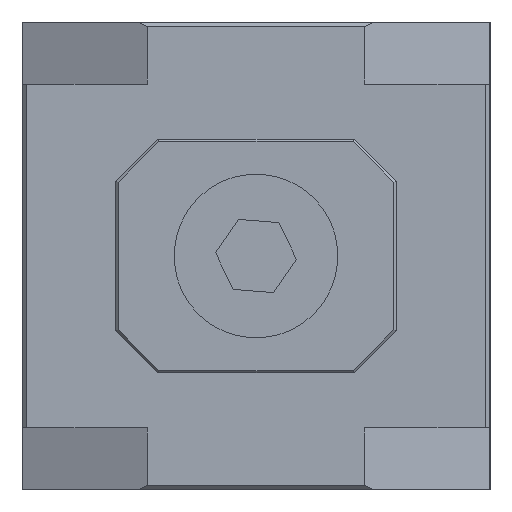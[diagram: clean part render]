
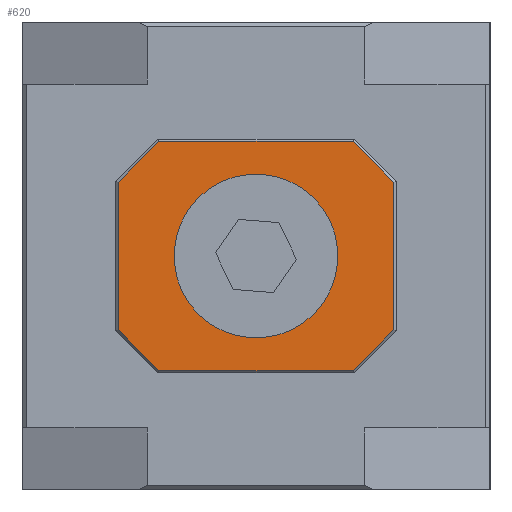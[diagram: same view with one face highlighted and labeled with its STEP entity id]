
A CAD part, left-side view. The second image highlights one B-rep face of the part: STEP entity #620.
In plain terms, the highlighted planar face has unit normal (-1, 0, 0) as drawn and (0, 0, 1) by its records, which use the part's own axes.
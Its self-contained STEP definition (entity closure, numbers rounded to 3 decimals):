
#16 = CARTESIAN_POINT ( 'NONE',  ( -4.995, -5.895, 1.8 ) ) ;
#20 = ORIENTED_EDGE ( 'NONE', *, *, #1202, .T. ) ;
#36 = LINE ( 'NONE', #755, #417 ) ;
#42 = EDGE_CURVE ( 'NONE', #1284, #1095, #1814, .T. ) ;
#50 = EDGE_CURVE ( 'NONE', #1095, #1284, #1172, .T. ) ;
#61 = VERTEX_POINT ( 'NONE', #591 ) ;
#67 = VERTEX_POINT ( 'NONE', #1651 ) ;
#91 = DIRECTION ( 'NONE',  ( 0., 0., -1. ) ) ;
#97 = DIRECTION ( 'NONE',  ( -1., 0., 0. ) ) ;
#110 = EDGE_CURVE ( 'NONE', #1385, #1147, #36, .T. ) ;
#134 = VERTEX_POINT ( 'NONE', #613 ) ;
#155 = DIRECTION ( 'NONE',  ( 1., 0., 0. ) ) ;
#156 = VECTOR ( 'NONE', #706, 1000. ) ;
#245 = VECTOR ( 'NONE', #915, 1000. ) ;
#287 = EDGE_CURVE ( 'NONE', #67, #1154, #1454, .T. ) ;
#335 = LINE ( 'NONE', #1062, #831 ) ;
#336 = CARTESIAN_POINT ( 'NONE',  ( -4.895, -4.154, 1.8 ) ) ;
#417 = VECTOR ( 'NONE', #1514, 1000. ) ;
#436 = VECTOR ( 'NONE', #1719, 1000. ) ;
#455 = DIRECTION ( 'NONE',  ( 1., 0., 0. ) ) ;
#459 = CARTESIAN_POINT ( 'NONE',  ( 4.895, 5.995, 1.8 ) ) ;
#476 = CARTESIAN_POINT ( 'NONE',  ( -4.024, 5.024, 1.8 ) ) ;
#494 = DIRECTION ( 'NONE',  ( 0., 1., 0. ) ) ;
#524 = CARTESIAN_POINT ( 'NONE',  ( -4.995, 5.995, 1.8 ) ) ;
#557 = ORIENTED_EDGE ( 'NONE', *, *, #110, .T. ) ;
#591 = CARTESIAN_POINT ( 'NONE',  ( 3.154, 5.895, 1.8 ) ) ;
#592 = CARTESIAN_POINT ( 'NONE',  ( -0.971, 10.019, 1.8 ) ) ;
#613 = CARTESIAN_POINT ( 'NONE',  ( -3.154, 5.895, 1.8 ) ) ;
#620 = ADVANCED_FACE ( 'NONE', ( #986, #1384 ), #1599, .F. ) ;
#666 = CARTESIAN_POINT ( 'NONE',  ( 3.154, -5.895, 1.8 ) ) ;
#689 = AXIS2_PLACEMENT_3D ( 'NONE', #524, #91, #97 ) ;
#706 = DIRECTION ( 'NONE',  ( 0.707, -0.707, 0. ) ) ;
#734 = LINE ( 'NONE', #1875, #156 ) ;
#755 = CARTESIAN_POINT ( 'NONE',  ( -4.895, 5.995, 1.8 ) ) ;
#766 = ORIENTED_EDGE ( 'NONE', *, *, #934, .T. ) ;
#816 = VERTEX_POINT ( 'NONE', #1184 ) ;
#831 = VECTOR ( 'NONE', #1659, 1000. ) ;
#833 = LINE ( 'NONE', #1425, #436 ) ;
#895 = ORIENTED_EDGE ( 'NONE', *, *, #1710, .T. ) ;
#915 = DIRECTION ( 'NONE',  ( 1., 0., 0. ) ) ;
#929 = CARTESIAN_POINT ( 'NONE',  ( -1.65, 0., 1.8 ) ) ;
#934 = EDGE_CURVE ( 'NONE', #816, #1638, #1740, .T. ) ;
#935 = ORIENTED_EDGE ( 'NONE', *, *, #1640, .T. ) ;
#957 = ORIENTED_EDGE ( 'NONE', *, *, #1891, .T. ) ;
#980 = CARTESIAN_POINT ( 'NONE',  ( -4.895, 4.154, 1.8 ) ) ;
#986 = FACE_OUTER_BOUND ( 'NONE', #1666, .T. ) ;
#996 = EDGE_CURVE ( 'NONE', #1154, #61, #1428, .T. ) ;
#1000 = VECTOR ( 'NONE', #1526, 1000. ) ;
#1006 = ORIENTED_EDGE ( 'NONE', *, *, #287, .T. ) ;
#1062 = CARTESIAN_POINT ( 'NONE',  ( -4.995, 5.895, 1.8 ) ) ;
#1070 = ORIENTED_EDGE ( 'NONE', *, *, #996, .T. ) ;
#1088 = VECTOR ( 'NONE', #1516, 1000. ) ;
#1095 = VERTEX_POINT ( 'NONE', #929 ) ;
#1102 = CARTESIAN_POINT ( 'NONE',  ( 1.65, 0., 1.8 ) ) ;
#1147 = VERTEX_POINT ( 'NONE', #336 ) ;
#1154 = VERTEX_POINT ( 'NONE', #1695 ) ;
#1172 = CIRCLE ( 'NONE', #1508, 1.65 ) ;
#1184 = CARTESIAN_POINT ( 'NONE',  ( -3.154, -5.895, 1.8 ) ) ;
#1202 = EDGE_CURVE ( 'NONE', #134, #1385, #1765, .T. ) ;
#1205 = EDGE_LOOP ( 'NONE', ( #1345, #1245 ) ) ;
#1234 = AXIS2_PLACEMENT_3D ( 'NONE', #1634, #1497, #455 ) ;
#1245 = ORIENTED_EDGE ( 'NONE', *, *, #50, .F. ) ;
#1284 = VERTEX_POINT ( 'NONE', #1102 ) ;
#1345 = ORIENTED_EDGE ( 'NONE', *, *, #42, .F. ) ;
#1384 = FACE_BOUND ( 'NONE', #1205, .T. ) ;
#1385 = VERTEX_POINT ( 'NONE', #980 ) ;
#1412 = VECTOR ( 'NONE', #494, 1000. ) ;
#1425 = CARTESIAN_POINT ( 'NONE',  ( 5.024, -4.024, 1.8 ) ) ;
#1428 = LINE ( 'NONE', #592, #1088 ) ;
#1454 = LINE ( 'NONE', #459, #1412 ) ;
#1483 = CARTESIAN_POINT ( 'NONE',  ( 0., 0., 1.8 ) ) ;
#1497 = DIRECTION ( 'NONE',  ( 0., 0., 1. ) ) ;
#1508 = AXIS2_PLACEMENT_3D ( 'NONE', #1483, #1654, #155 ) ;
#1514 = DIRECTION ( 'NONE',  ( 0., -1., 0. ) ) ;
#1516 = DIRECTION ( 'NONE',  ( -0.707, 0.707, 0. ) ) ;
#1526 = DIRECTION ( 'NONE',  ( -0.707, -0.707, 0. ) ) ;
#1599 = PLANE ( 'NONE',  #689 ) ;
#1634 = CARTESIAN_POINT ( 'NONE',  ( 0., 0., 1.8 ) ) ;
#1638 = VERTEX_POINT ( 'NONE', #666 ) ;
#1640 = EDGE_CURVE ( 'NONE', #1638, #67, #833, .T. ) ;
#1651 = CARTESIAN_POINT ( 'NONE',  ( 4.895, -4.154, 1.8 ) ) ;
#1654 = DIRECTION ( 'NONE',  ( 0., 0., 1. ) ) ;
#1659 = DIRECTION ( 'NONE',  ( -1., 0., 0. ) ) ;
#1666 = EDGE_LOOP ( 'NONE', ( #957, #20, #557, #895, #766, #935, #1006, #1070 ) ) ;
#1695 = CARTESIAN_POINT ( 'NONE',  ( 4.895, 4.154, 1.8 ) ) ;
#1710 = EDGE_CURVE ( 'NONE', #1147, #816, #734, .T. ) ;
#1719 = DIRECTION ( 'NONE',  ( 0.707, 0.707, 0. ) ) ;
#1740 = LINE ( 'NONE', #16, #245 ) ;
#1765 = LINE ( 'NONE', #476, #1000 ) ;
#1814 = CIRCLE ( 'NONE', #1234, 1.65 ) ;
#1875 = CARTESIAN_POINT ( 'NONE',  ( -10.019, 0.971, 1.8 ) ) ;
#1891 = EDGE_CURVE ( 'NONE', #61, #134, #335, .T. ) ;
